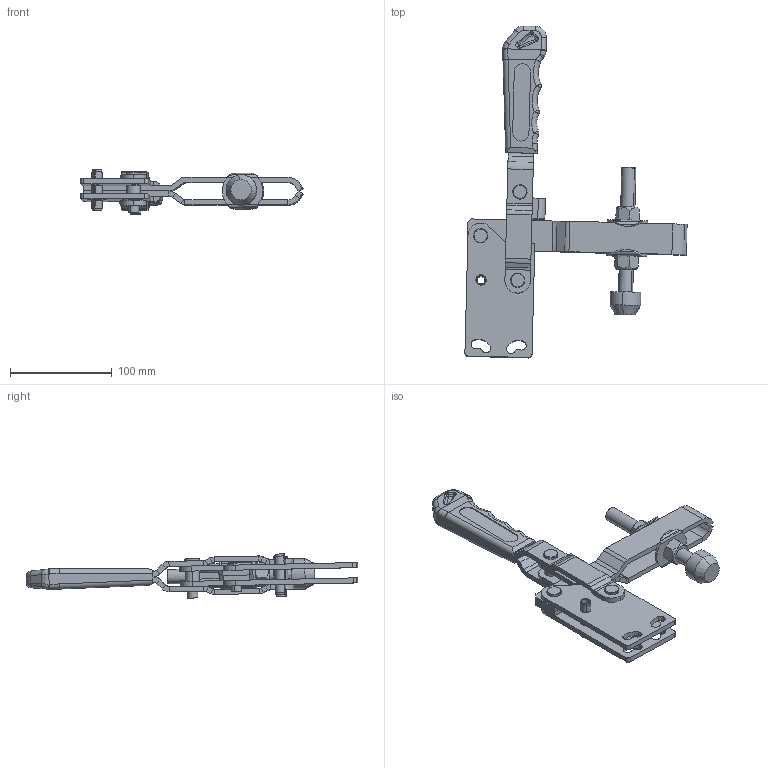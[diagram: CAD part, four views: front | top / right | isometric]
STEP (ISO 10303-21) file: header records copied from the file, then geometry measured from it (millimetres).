
FILE_DESCRIPTION (( 'STEP AP214' ), '1' );
FILE_NAME ('204_BU.STEP', '2024-09-09T16:32:57', ( '' ), ( '' ), 'SwSTEP 2.0', 'SolidWorks 2023', '' );
FILE_SCHEMA (( 'AUTOMOTIVE_DESIGN' ));
Length unit declared in the file: millimetre
Products named in the file (16): spring pin slotted_hd_din_Spring Pin ISO 8752 - 10 x 50 - St_1; TTMK_05_00; FZK_204_BLU_02_00; FZK_204_B_02_00; FZK_204_B_01_00; prevailing torque nut style 1_DIN_DIN EN ISO 4032 - M14 - C; M14X130 A.K.B CİVATA; M14 PUL; FZK_204_B_07_00; FZK_204_B_05A_00; FZK_204_BLU_01_00; FZK_204_B_05_00; FZK_204_B_04_00; 204_BU; M14 PABUC; FZK_204_B_06_00
Assembly tree (22 placements, depth 3):
  204_BU
    FZK_204_B_01_00  x2
    FZK_204_B_02_00  x2
    FZK_204_B_04_00
    FZK_204_B_05_00
      FZK_204_B_05A_00  x2
    FZK_204_B_06_00  x2
    FZK_204_B_07_00  x2
    TTMK_05_00
    spring pin slotted_hd_din_Spring Pin ISO 8752 - 10 x 50 - St_1
    FZK_204_BLU_01_00
    FZK_204_BLU_02_00
    M14X130 A.K.B CİVATA
    M14 PABUC
    M14 PUL  x2
    prevailing torque nut style 1_DIN_DIN EN ISO 4032 - M14 - C  x2
Bounding box: 218.53 x 326.51 x 43.5 mm (x, y, z)
Volume: 351404 mm3; surface area: 171720.1 mm2
Topology: 22 solids, 22 shells, 673 faces, 1537 edges, 908 vertices
Faces by surface type: cylinder 282, plane 273, bspline 61, cone 57
Entity records: 16764 total; most frequent: CARTESIAN_POINT 5288, DIRECTION 2337, ORIENTED_EDGE 2244, EDGE_CURVE 1122, AXIS2_PLACEMENT_3D 882, VERTEX_POINT 674, VECTOR 573, LINE 573
